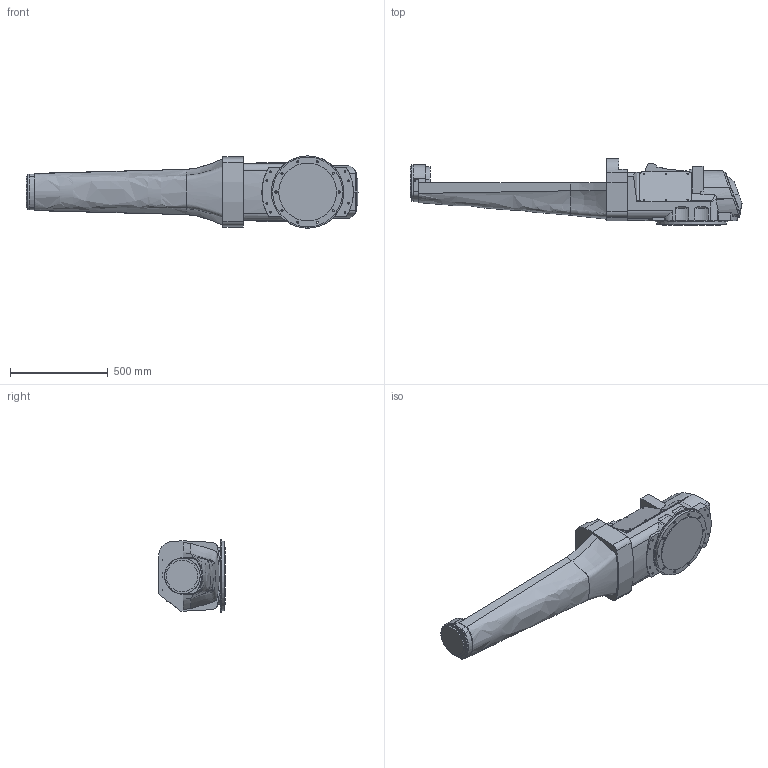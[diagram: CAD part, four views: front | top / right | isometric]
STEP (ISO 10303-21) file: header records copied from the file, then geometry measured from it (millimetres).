
FILE_DESCRIPTION (( 'STEP AP214' ), '1' );
FILE_NAME ('IRB5500-22_rev00_LINK3_CAD.STEP', '2018-07-20T05:31:23', ( '' ), ( '' ), 'SwSTEP 2.0', 'SolidWorks 2016', '' );
FILE_SCHEMA (( 'AUTOMOTIVE_DESIGN' ));
Length unit declared in the file: millimetre
Products named in the file (1): IRB5500-22_rev00_LINK3_CAD
Bounding box: 1698.9 x 342 x 369.98 mm (x, y, z)
Volume: 77178405.7 mm3; surface area: 1797400.4 mm2
Topology: 2 solids, 2 shells, 323 faces, 712 edges, 468 vertices
Faces by surface type: plane 169, cylinder 120, bspline 27, torus 4, cone 3
Full cylindrical faces by diameter (mm): 6 x36, 6.5 x12, 8 x16, 11 x10, 161 x1, 181 x1, 295 x1, 357 x1
Entity records: 11233 total; most frequent: CARTESIAN_POINT 4316, DIRECTION 1326, ORIENTED_EDGE 1256, EDGE_CURVE 628, AXIS2_PLACEMENT_3D 523, EDGE_LOOP 484, VERTEX_POINT 462, FACE_OUTER_BOUND 401
